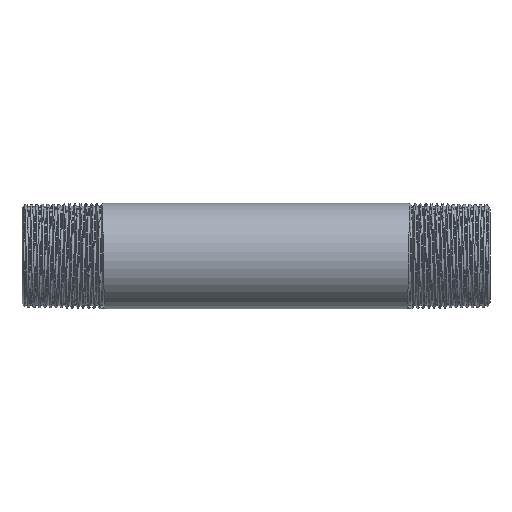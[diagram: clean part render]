
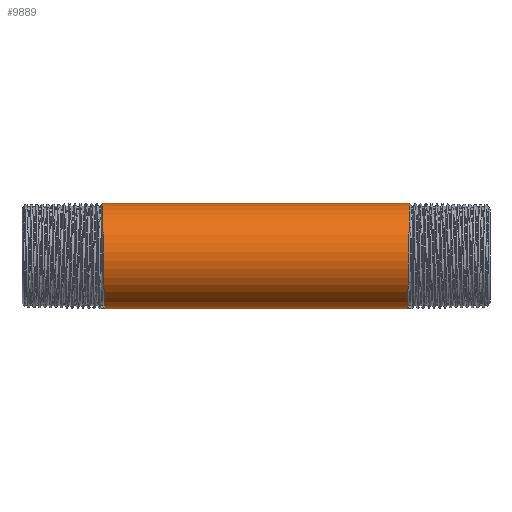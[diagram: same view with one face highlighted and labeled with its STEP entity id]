
A CAD part, front view. The second image highlights one B-rep face of the part: STEP entity #9889.
In plain terms, the highlighted cylindrical face has radius 6.75 mm (diameter 13.5 mm), a partial arc.
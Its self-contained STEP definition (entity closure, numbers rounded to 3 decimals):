
#21 = EDGE_CURVE ( 'NONE', #1016, #3812, #10174, .T. ) ;
#23 = EDGE_CURVE ( 'NONE', #8156, #1016, #5537, .T. ) ;
#238 = CARTESIAN_POINT ( 'NONE',  ( 19.446, -3.897, -6.75 ) ) ;
#435 = DIRECTION ( 'NONE',  ( -1., 0., 0. ) ) ;
#480 = CARTESIAN_POINT ( 'NONE',  ( 19.388, 0., -6.75 ) ) ;
#1016 = VERTEX_POINT ( 'NONE', #7349 ) ;
#1171 = CARTESIAN_POINT ( 'NONE',  ( 19.738, 0., 6.75 ) ) ;
#1187 = CARTESIAN_POINT ( 'NONE',  ( -19.679, -3.897, 6.75 ) ) ;
#1429 = EDGE_CURVE ( 'NONE', #2812, #3812, #9962, .T. ) ;
#1884 = CARTESIAN_POINT ( 'NONE',  ( -19.388, 0., -6.75 ) ) ;
#1991 = CARTESIAN_POINT ( 'NONE',  ( 19.388, 0., -6.75 ) ) ;
#2264 = VECTOR ( 'NONE', #7052, 1000. ) ;
#2268 = CARTESIAN_POINT ( 'NONE',  ( -149.494, 0., -6.75 ) ) ;
#2327 = ORIENTED_EDGE ( 'NONE', *, *, #21, .T. ) ;
#2760 = CARTESIAN_POINT ( 'NONE',  ( 19.504, -5.846, -3.375 ) ) ;
#2812 = VERTEX_POINT ( 'NONE', #1884 ) ;
#2907 = CYLINDRICAL_SURFACE ( 'NONE', #9563, 6.75 ) ;
#3011 = FACE_OUTER_BOUND ( 'NONE', #6860, .T. ) ;
#3303 = ORIENTED_EDGE ( 'NONE', *, *, #23, .T. ) ;
#3528 = VECTOR ( 'NONE', #6562, 1000. ) ;
#3570 = ORIENTED_EDGE ( 'NONE', *, *, #5523, .F. ) ;
#3636 = CARTESIAN_POINT ( 'NONE',  ( 19.679, -3.897, 6.75 ) ) ;
#3653 = CARTESIAN_POINT ( 'NONE',  ( -19.446, -3.897, -6.75 ) ) ;
#3705 = CARTESIAN_POINT ( 'NONE',  ( -19.738, 0., 6.75 ) ) ;
#3783 = DIRECTION ( 'NONE',  ( 0., 0., 1. ) ) ;
#3812 = VERTEX_POINT ( 'NONE', #4022 ) ;
#4022 = CARTESIAN_POINT ( 'NONE',  ( -19.738, 0., 6.75 ) ) ;
#4128 = LINE ( 'NONE', #2268, #3528 ) ;
#4346 = CARTESIAN_POINT ( 'NONE',  ( 19.621, -5.846, 3.375 ) ) ;
#5434 = CARTESIAN_POINT ( 'NONE',  ( -149.494, 0., 0. ) ) ;
#5523 = EDGE_CURVE ( 'NONE', #8156, #2812, #4128, .T. ) ;
#5537 =( BOUNDED_CURVE ( )  B_SPLINE_CURVE ( 2, ( #1991, #238, #2760, #6121, #4346, #3636, #1171 ),
 .UNSPECIFIED., .F., .F. ) 
 B_SPLINE_CURVE_WITH_KNOTS ( ( 3, 2, 2, 3 ),
 ( 0., 0.007, 0.014, 0.021 ),
 .UNSPECIFIED. ) 
 CURVE ( )  GEOMETRIC_REPRESENTATION_ITEM ( )  RATIONAL_B_SPLINE_CURVE ( ( 1., 0.866, 1., 0.866, 1., 0.866, 1. ) ) 
 REPRESENTATION_ITEM ( '' )  );
#5763 = ORIENTED_EDGE ( 'NONE', *, *, #1429, .F. ) ;
#6121 = CARTESIAN_POINT ( 'NONE',  ( 19.563, -7.794, 0. ) ) ;
#6562 = DIRECTION ( 'NONE',  ( -1., 0., 0. ) ) ;
#6860 = EDGE_LOOP ( 'NONE', ( #3570, #3303, #2327, #5763 ) ) ;
#7052 = DIRECTION ( 'NONE',  ( -1., 0., 0. ) ) ;
#7349 = CARTESIAN_POINT ( 'NONE',  ( 19.738, 0., 6.75 ) ) ;
#8156 = VERTEX_POINT ( 'NONE', #480 ) ;
#8599 = CARTESIAN_POINT ( 'NONE',  ( -19.504, -5.846, -3.375 ) ) ;
#8707 = CARTESIAN_POINT ( 'NONE',  ( -19.621, -5.846, 3.375 ) ) ;
#9426 = CARTESIAN_POINT ( 'NONE',  ( -19.563, -7.794, 0. ) ) ;
#9534 = CARTESIAN_POINT ( 'NONE',  ( -19.388, 0., -6.75 ) ) ;
#9563 = AXIS2_PLACEMENT_3D ( 'NONE', #5434, #435, #3783 ) ;
#9889 = ADVANCED_FACE ( 'NONE', ( #3011 ), #2907, .T. ) ;
#9962 =( BOUNDED_CURVE ( )  B_SPLINE_CURVE ( 2, ( #9534, #3653, #8599, #9426, #8707, #1187, #3705 ),
 .UNSPECIFIED., .F., .F. ) 
 B_SPLINE_CURVE_WITH_KNOTS ( ( 3, 2, 2, 3 ),
 ( 0., 0.007, 0.014, 0.021 ),
 .UNSPECIFIED. ) 
 CURVE ( )  GEOMETRIC_REPRESENTATION_ITEM ( )  RATIONAL_B_SPLINE_CURVE ( ( 1., 0.866, 1., 0.866, 1., 0.866, 1. ) ) 
 REPRESENTATION_ITEM ( '' )  );
#10174 = LINE ( 'NONE', #10342, #2264 ) ;
#10342 = CARTESIAN_POINT ( 'NONE',  ( -149.494, 0., 6.75 ) ) ;
